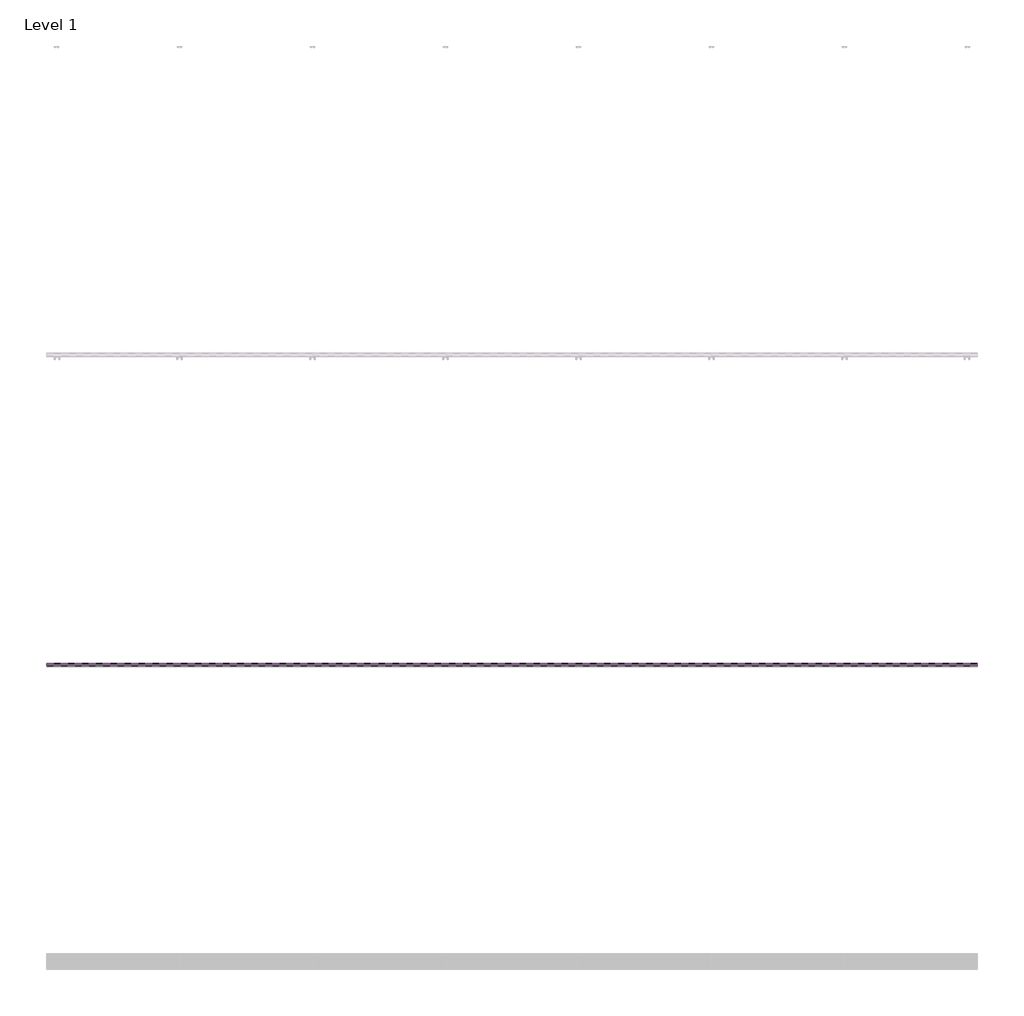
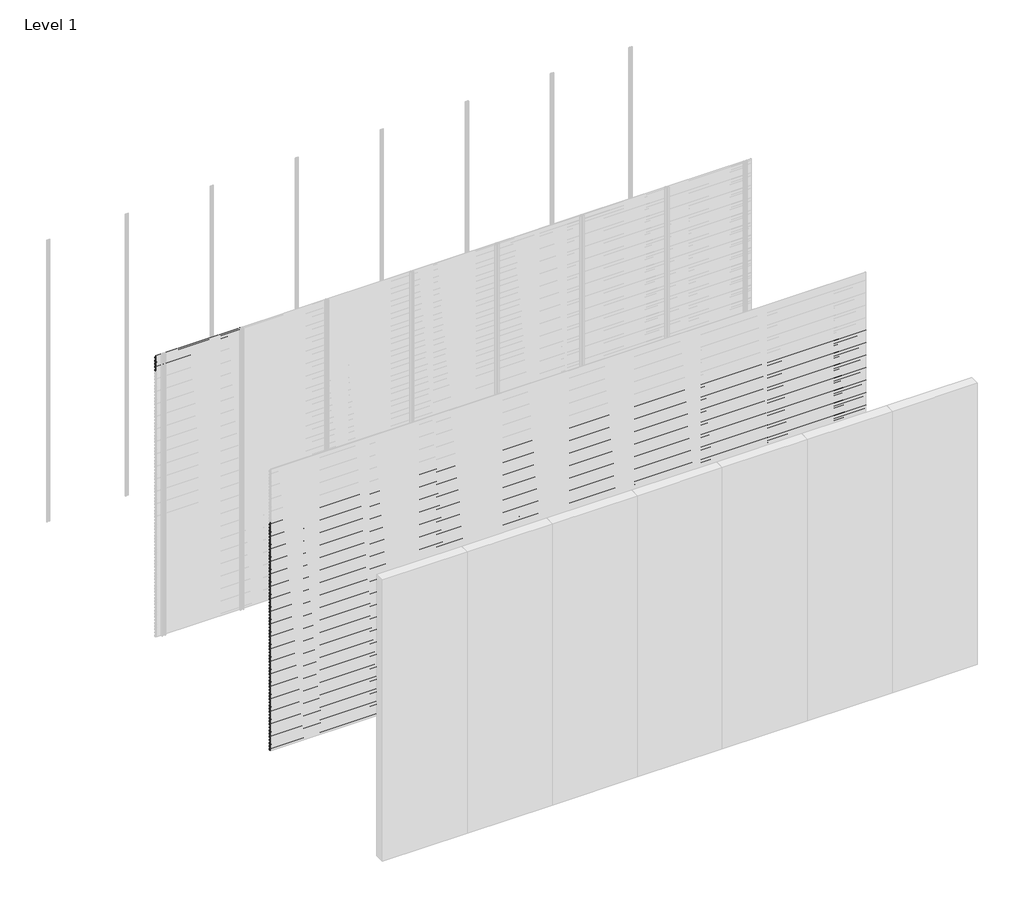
# One storey, part 79 of 96: 78 proxies.
"""IFC4 building model written with IfcOpenShell, lengths in millimetres."""

from ifc_helpers import new_model, si_unit, frame, origin, place, context, project, spatial, polyline, outline, extrude, element, save

model = new_model("IFC4")

# Units and contexts
model_context = context("Model", 3, world=origin())
ifc_project = project(units=[si_unit("LENGTHUNIT", "METRE", prefix="MILLI")], contexts=[model_context])

# Site, building, storey
site = spatial("IfcSite", under=ifc_project)
building = spatial("IfcBuilding", under=site)
storey = spatial("IfcBuildingStorey", under=building, Name="Level 1", Elevation=0.0)

# Proxies
placement = place(None, origin())
element("IfcBuildingElementProxy", 1, Name="Wall Sweeps", at=placement, inside=storey, context=model_context, shape_type="SweptSolid", body=[
    extrude(outline(polyline([(-5977.6, 2971.7655033), (-5977.6, 2957.4779188), (-5982.4114965, 2954.7), (-5982.4114965, 2955.9701706), (-5978.85, 2958.0264016), (-5978.85, 2971.0437382), (-5998.0, 2982.1000799), (-5998.0, 2997.0), (-5996.75, 2997.0), (-5996.75, 2982.8217609), (-5977.6, 2971.7655033)])), frame((0.0, 0.0, 0.0), z_axis=(1.0, 0.0, 0.0), x_axis=(0.0, 1.0, 0.0)), (0.0, 0.0, 1.0), 857.1428571),
])
element("IfcBuildingElementProxy", 2, Name="Wall Sweeps", at=placement, inside=storey, context=model_context, shape_type="SweptSolid", body=[
    extrude(outline(polyline([(-5977.6, 2938.4655033), (-5977.6, 2924.1779188), (-5982.4114965, 2921.4), (-5982.4114965, 2922.6701706), (-5978.85, 2924.7264016), (-5978.85, 2937.7437382), (-5998.0, 2948.8000799), (-5998.0, 2963.7), (-5996.75, 2963.7), (-5996.75, 2949.5217609), (-5977.6, 2938.4655033)])), frame((0.0, 0.0, 0.0), z_axis=(1.0, 0.0, 0.0), x_axis=(0.0, 1.0, 0.0)), (0.0, 0.0, 1.0), 857.1428571),
])
element("IfcBuildingElementProxy", 3, Name="Wall Sweeps", at=placement, inside=storey, context=model_context, shape_type="SweptSolid", body=[
    extrude(outline(polyline([(-5977.6, 2905.1655033), (-5977.6, 2890.8779188), (-5982.4114965, 2888.1), (-5982.4114965, 2889.3701706), (-5978.85, 2891.4264016), (-5978.85, 2904.4437382), (-5998.0, 2915.5000799), (-5998.0, 2930.4), (-5996.75, 2930.4), (-5996.75, 2916.2217609), (-5977.6, 2905.1655033)])), frame((0.0, 0.0, 0.0), z_axis=(1.0, 0.0, 0.0), x_axis=(0.0, 1.0, 0.0)), (0.0, 0.0, 1.0), 857.1428571),
])
element("IfcBuildingElementProxy", 4, Name="Wall Sweeps", at=placement, inside=storey, context=model_context, shape_type="SweptSolid", body=[
    extrude(outline(polyline([(-5977.6, 2871.8655033), (-5977.6, 2857.5779188), (-5982.4114965, 2854.8), (-5982.4114965, 2856.0701706), (-5978.85, 2858.1264016), (-5978.85, 2871.1437382), (-5998.0, 2882.2000799), (-5998.0, 2897.1), (-5996.75, 2897.1), (-5996.75, 2882.9217609), (-5977.6, 2871.8655033)])), frame((0.0, 0.0, 0.0), z_axis=(1.0, 0.0, 0.0), x_axis=(0.0, 1.0, 0.0)), (0.0, 0.0, 1.0), 857.1428571),
])
element("IfcBuildingElementProxy", 5, Name="Wall Sweeps", at=placement, inside=storey, context=model_context, shape_type="SweptSolid", body=[
    extrude(outline(polyline([(-5977.6, 2838.5655033), (-5977.6, 2824.2779188), (-5982.4114965, 2821.5), (-5982.4114965, 2822.7701706), (-5978.85, 2824.8264016), (-5978.85, 2837.8437382), (-5998.0, 2848.9000799), (-5998.0, 2863.8), (-5996.75, 2863.8), (-5996.75, 2849.6217609), (-5977.6, 2838.5655033)])), frame((0.0, 0.0, 0.0), z_axis=(1.0, 0.0, 0.0), x_axis=(0.0, 1.0, 0.0)), (0.0, 0.0, 1.0), 857.1428571),
])
element("IfcBuildingElementProxy", 6, Name="Wall Sweeps", at=placement, inside=storey, context=model_context, shape_type="SweptSolid", body=[
    extrude(outline(polyline([(-7977.6, 2405.6655033), (-7977.6, 2391.3779188), (-7982.4114965, 2388.6), (-7982.4114965, 2389.8701706), (-7978.85, 2391.9264016), (-7978.85, 2404.9437382), (-7998.0, 2416.0000799), (-7998.0, 2430.9), (-7996.75, 2430.9), (-7996.75, 2416.7217609), (-7977.6, 2405.6655033)])), frame((0.0, 0.0, 0.0), z_axis=(1.0, 0.0, 0.0), x_axis=(0.0, 1.0, 0.0)), (0.0, 0.0, 1.0), 6000.0),
])
element("IfcBuildingElementProxy", 7, Name="Wall Sweeps", at=placement, inside=storey, context=model_context, shape_type="SweptSolid", body=[
    extrude(outline(polyline([(-7977.6, 2372.3655033), (-7977.6, 2358.0779188), (-7982.4114965, 2355.3), (-7982.4114965, 2356.5701706), (-7978.85, 2358.6264016), (-7978.85, 2371.6437382), (-7998.0, 2382.7000799), (-7998.0, 2397.6), (-7996.75, 2397.6), (-7996.75, 2383.4217609), (-7977.6, 2372.3655033)])), frame((0.0, 0.0, 0.0), z_axis=(1.0, 0.0, 0.0), x_axis=(0.0, 1.0, 0.0)), (0.0, 0.0, 1.0), 6000.0),
])
element("IfcBuildingElementProxy", 8, Name="Wall Sweeps", at=placement, inside=storey, context=model_context, shape_type="SweptSolid", body=[
    extrude(outline(polyline([(-7977.6, 2339.0655033), (-7977.6, 2324.7779188), (-7982.4114965, 2322.0), (-7982.4114965, 2323.2701706), (-7978.85, 2325.3264016), (-7978.85, 2338.3437382), (-7998.0, 2349.4000799), (-7998.0, 2364.3), (-7996.75, 2364.3), (-7996.75, 2350.1217609), (-7977.6, 2339.0655033)])), frame((0.0, 0.0, 0.0), z_axis=(1.0, 0.0, 0.0), x_axis=(0.0, 1.0, 0.0)), (0.0, 0.0, 1.0), 6000.0),
])
element("IfcBuildingElementProxy", 9, Name="Wall Sweeps", at=placement, inside=storey, context=model_context, shape_type="SweptSolid", body=[
    extrude(outline(polyline([(-7977.6, 2305.7655033), (-7977.6, 2291.4779188), (-7982.4114965, 2288.7), (-7982.4114965, 2289.9701706), (-7978.85, 2292.0264016), (-7978.85, 2305.0437382), (-7998.0, 2316.1000799), (-7998.0, 2331.0), (-7996.75, 2331.0), (-7996.75, 2316.8217609), (-7977.6, 2305.7655033)])), frame((0.0, 0.0, 0.0), z_axis=(1.0, 0.0, 0.0), x_axis=(0.0, 1.0, 0.0)), (0.0, 0.0, 1.0), 6000.0),
])
element("IfcBuildingElementProxy", 10, Name="Wall Sweeps", at=placement, inside=storey, context=model_context, shape_type="SweptSolid", body=[
    extrude(outline(polyline([(-7977.6, 2272.4655033), (-7977.6, 2258.1779188), (-7982.4114965, 2255.4), (-7982.4114965, 2256.6701706), (-7978.85, 2258.7264016), (-7978.85, 2271.7437382), (-7998.0, 2282.8000799), (-7998.0, 2297.7), (-7996.75, 2297.7), (-7996.75, 2283.5217609), (-7977.6, 2272.4655033)])), frame((0.0, 0.0, 0.0), z_axis=(1.0, 0.0, 0.0), x_axis=(0.0, 1.0, 0.0)), (0.0, 0.0, 1.0), 6000.0),
])
element("IfcBuildingElementProxy", 11, Name="Wall Sweeps", at=placement, inside=storey, context=model_context, shape_type="SweptSolid", body=[
    extrude(outline(polyline([(-7977.6, 2239.1655033), (-7977.6, 2224.8779188), (-7982.4114965, 2222.1), (-7982.4114965, 2223.3701706), (-7978.85, 2225.4264016), (-7978.85, 2238.4437382), (-7998.0, 2249.5000799), (-7998.0, 2264.4), (-7996.75, 2264.4), (-7996.75, 2250.2217609), (-7977.6, 2239.1655033)])), frame((0.0, 0.0, 0.0), z_axis=(1.0, 0.0, 0.0), x_axis=(0.0, 1.0, 0.0)), (0.0, 0.0, 1.0), 6000.0),
])
element("IfcBuildingElementProxy", 12, Name="Wall Sweeps", at=placement, inside=storey, context=model_context, shape_type="SweptSolid", body=[
    extrude(outline(polyline([(-7977.6, 2205.8655033), (-7977.6, 2191.5779188), (-7982.4114965, 2188.8), (-7982.4114965, 2190.0701706), (-7978.85, 2192.1264016), (-7978.85, 2205.1437382), (-7998.0, 2216.2000799), (-7998.0, 2231.1), (-7996.75, 2231.1), (-7996.75, 2216.9217609), (-7977.6, 2205.8655033)])), frame((0.0, 0.0, 0.0), z_axis=(1.0, 0.0, 0.0), x_axis=(0.0, 1.0, 0.0)), (0.0, 0.0, 1.0), 6000.0),
])
element("IfcBuildingElementProxy", 13, Name="Wall Sweeps", at=placement, inside=storey, context=model_context, shape_type="SweptSolid", body=[
    extrude(outline(polyline([(-7977.6, 2172.5655033), (-7977.6, 2158.2779188), (-7982.4114965, 2155.5), (-7982.4114965, 2156.7701706), (-7978.85, 2158.8264016), (-7978.85, 2171.8437382), (-7998.0, 2182.9000799), (-7998.0, 2197.8), (-7996.75, 2197.8), (-7996.75, 2183.6217609), (-7977.6, 2172.5655033)])), frame((0.0, 0.0, 0.0), z_axis=(1.0, 0.0, 0.0), x_axis=(0.0, 1.0, 0.0)), (0.0, 0.0, 1.0), 6000.0),
])
element("IfcBuildingElementProxy", 14, Name="Wall Sweeps", at=placement, inside=storey, context=model_context, shape_type="SweptSolid", body=[
    extrude(outline(polyline([(-7977.6, 2139.2655033), (-7977.6, 2124.9779188), (-7982.4114965, 2122.2), (-7982.4114965, 2123.4701706), (-7978.85, 2125.5264016), (-7978.85, 2138.5437382), (-7998.0, 2149.6000799), (-7998.0, 2164.5), (-7996.75, 2164.5), (-7996.75, 2150.3217609), (-7977.6, 2139.2655033)])), frame((0.0, 0.0, 0.0), z_axis=(1.0, 0.0, 0.0), x_axis=(0.0, 1.0, 0.0)), (0.0, 0.0, 1.0), 6000.0),
])
element("IfcBuildingElementProxy", 15, Name="Wall Sweeps", at=placement, inside=storey, context=model_context, shape_type="SweptSolid", body=[
    extrude(outline(polyline([(-7977.6, 2105.9655033), (-7977.6, 2091.6779188), (-7982.4114965, 2088.9), (-7982.4114965, 2090.1701706), (-7978.85, 2092.2264016), (-7978.85, 2105.2437382), (-7998.0, 2116.3000799), (-7998.0, 2131.2), (-7996.75, 2131.2), (-7996.75, 2117.0217609), (-7977.6, 2105.9655033)])), frame((0.0, 0.0, 0.0), z_axis=(1.0, 0.0, 0.0), x_axis=(0.0, 1.0, 0.0)), (0.0, 0.0, 1.0), 6000.0),
])
element("IfcBuildingElementProxy", 16, Name="Wall Sweeps", at=placement, inside=storey, context=model_context, shape_type="SweptSolid", body=[
    extrude(outline(polyline([(-7977.6, 2072.6655033), (-7977.6, 2058.3779188), (-7982.4114965, 2055.6), (-7982.4114965, 2056.8701706), (-7978.85, 2058.9264016), (-7978.85, 2071.9437382), (-7998.0, 2083.0000799), (-7998.0, 2097.9), (-7996.75, 2097.9), (-7996.75, 2083.7217609), (-7977.6, 2072.6655033)])), frame((0.0, 0.0, 0.0), z_axis=(1.0, 0.0, 0.0), x_axis=(0.0, 1.0, 0.0)), (0.0, 0.0, 1.0), 6000.0),
])
element("IfcBuildingElementProxy", 17, Name="Wall Sweeps", at=placement, inside=storey, context=model_context, shape_type="SweptSolid", body=[
    extrude(outline(polyline([(-7977.6, 2039.3655033), (-7977.6, 2025.0779188), (-7982.4114965, 2022.3), (-7982.4114965, 2023.5701706), (-7978.85, 2025.6264016), (-7978.85, 2038.6437382), (-7998.0, 2049.7000799), (-7998.0, 2064.6), (-7996.75, 2064.6), (-7996.75, 2050.4217609), (-7977.6, 2039.3655033)])), frame((0.0, 0.0, 0.0), z_axis=(1.0, 0.0, 0.0), x_axis=(0.0, 1.0, 0.0)), (0.0, 0.0, 1.0), 6000.0),
])
element("IfcBuildingElementProxy", 18, Name="Wall Sweeps", at=placement, inside=storey, context=model_context, shape_type="SweptSolid", body=[
    extrude(outline(polyline([(-7977.6, 2006.0655033), (-7977.6, 1991.7779188), (-7982.4114965, 1989.0), (-7982.4114965, 1990.2701706), (-7978.85, 1992.3264016), (-7978.85, 2005.3437382), (-7998.0, 2016.4000799), (-7998.0, 2031.3), (-7996.75, 2031.3), (-7996.75, 2017.1217609), (-7977.6, 2006.0655033)])), frame((0.0, 0.0, 0.0), z_axis=(1.0, 0.0, 0.0), x_axis=(0.0, 1.0, 0.0)), (0.0, 0.0, 1.0), 6000.0),
])
element("IfcBuildingElementProxy", 19, Name="Wall Sweeps", at=placement, inside=storey, context=model_context, shape_type="SweptSolid", body=[
    extrude(outline(polyline([(-7977.6, 1972.7655033), (-7977.6, 1958.4779188), (-7982.4114965, 1955.7), (-7982.4114965, 1956.9701706), (-7978.85, 1959.0264016), (-7978.85, 1972.0437382), (-7998.0, 1983.1000799), (-7998.0, 1998.0), (-7996.75, 1998.0), (-7996.75, 1983.8217609), (-7977.6, 1972.7655033)])), frame((0.0, 0.0, 0.0), z_axis=(1.0, 0.0, 0.0), x_axis=(0.0, 1.0, 0.0)), (0.0, 0.0, 1.0), 6000.0),
])
element("IfcBuildingElementProxy", 20, Name="Wall Sweeps", at=placement, inside=storey, context=model_context, shape_type="SweptSolid", body=[
    extrude(outline(polyline([(-7977.6, 1939.4655033), (-7977.6, 1925.1779188), (-7982.4114965, 1922.4), (-7982.4114965, 1923.6701706), (-7978.85, 1925.7264016), (-7978.85, 1938.7437382), (-7998.0, 1949.8000799), (-7998.0, 1964.7), (-7996.75, 1964.7), (-7996.75, 1950.5217609), (-7977.6, 1939.4655033)])), frame((0.0, 0.0, 0.0), z_axis=(1.0, 0.0, 0.0), x_axis=(0.0, 1.0, 0.0)), (0.0, 0.0, 1.0), 6000.0),
])
element("IfcBuildingElementProxy", 21, Name="Wall Sweeps", at=placement, inside=storey, context=model_context, shape_type="SweptSolid", body=[
    extrude(outline(polyline([(-7977.6, 1906.1655033), (-7977.6, 1891.8779188), (-7982.4114965, 1889.1), (-7982.4114965, 1890.3701706), (-7978.85, 1892.4264016), (-7978.85, 1905.4437382), (-7998.0, 1916.5000799), (-7998.0, 1931.4), (-7996.75, 1931.4), (-7996.75, 1917.2217609), (-7977.6, 1906.1655033)])), frame((0.0, 0.0, 0.0), z_axis=(1.0, 0.0, 0.0), x_axis=(0.0, 1.0, 0.0)), (0.0, 0.0, 1.0), 6000.0),
])
element("IfcBuildingElementProxy", 22, Name="Wall Sweeps", at=placement, inside=storey, context=model_context, shape_type="SweptSolid", body=[
    extrude(outline(polyline([(-7977.6, 1872.8655033), (-7977.6, 1858.5779188), (-7982.4114965, 1855.8), (-7982.4114965, 1857.0701706), (-7978.85, 1859.1264016), (-7978.85, 1872.1437382), (-7998.0, 1883.2000799), (-7998.0, 1898.1), (-7996.75, 1898.1), (-7996.75, 1883.9217609), (-7977.6, 1872.8655033)])), frame((0.0, 0.0, 0.0), z_axis=(1.0, 0.0, 0.0), x_axis=(0.0, 1.0, 0.0)), (0.0, 0.0, 1.0), 6000.0),
])
element("IfcBuildingElementProxy", 23, Name="Wall Sweeps", at=placement, inside=storey, context=model_context, shape_type="SweptSolid", body=[
    extrude(outline(polyline([(-7977.6, 1839.5655033), (-7977.6, 1825.2779188), (-7982.4114965, 1822.5), (-7982.4114965, 1823.7701706), (-7978.85, 1825.8264016), (-7978.85, 1838.8437382), (-7998.0, 1849.9000799), (-7998.0, 1864.8), (-7996.75, 1864.8), (-7996.75, 1850.6217609), (-7977.6, 1839.5655033)])), frame((0.0, 0.0, 0.0), z_axis=(1.0, 0.0, 0.0), x_axis=(0.0, 1.0, 0.0)), (0.0, 0.0, 1.0), 6000.0),
])
element("IfcBuildingElementProxy", 24, Name="Wall Sweeps", at=placement, inside=storey, context=model_context, shape_type="SweptSolid", body=[
    extrude(outline(polyline([(-7977.6, 1806.2655033), (-7977.6, 1791.9779188), (-7982.4114965, 1789.2), (-7982.4114965, 1790.4701706), (-7978.85, 1792.5264016), (-7978.85, 1805.5437382), (-7998.0, 1816.6000799), (-7998.0, 1831.5), (-7996.75, 1831.5), (-7996.75, 1817.3217609), (-7977.6, 1806.2655033)])), frame((0.0, 0.0, 0.0), z_axis=(1.0, 0.0, 0.0), x_axis=(0.0, 1.0, 0.0)), (0.0, 0.0, 1.0), 6000.0),
])
element("IfcBuildingElementProxy", 25, Name="Wall Sweeps", at=placement, inside=storey, context=model_context, shape_type="SweptSolid", body=[
    extrude(outline(polyline([(-7977.6, 1772.9655033), (-7977.6, 1758.6779188), (-7982.4114965, 1755.9), (-7982.4114965, 1757.1701706), (-7978.85, 1759.2264016), (-7978.85, 1772.2437382), (-7998.0, 1783.3000799), (-7998.0, 1798.2), (-7996.75, 1798.2), (-7996.75, 1784.0217609), (-7977.6, 1772.9655033)])), frame((0.0, 0.0, 0.0), z_axis=(1.0, 0.0, 0.0), x_axis=(0.0, 1.0, 0.0)), (0.0, 0.0, 1.0), 6000.0),
])
element("IfcBuildingElementProxy", 26, Name="Wall Sweeps", at=placement, inside=storey, context=model_context, shape_type="SweptSolid", body=[
    extrude(outline(polyline([(-7977.6, 1739.6655033), (-7977.6, 1725.3779188), (-7982.4114965, 1722.6), (-7982.4114965, 1723.8701706), (-7978.85, 1725.9264016), (-7978.85, 1738.9437382), (-7998.0, 1750.0000799), (-7998.0, 1764.9), (-7996.75, 1764.9), (-7996.75, 1750.7217609), (-7977.6, 1739.6655033)])), frame((0.0, 0.0, 0.0), z_axis=(1.0, 0.0, 0.0), x_axis=(0.0, 1.0, 0.0)), (0.0, 0.0, 1.0), 6000.0),
])
element("IfcBuildingElementProxy", 27, Name="Wall Sweeps", at=placement, inside=storey, context=model_context, shape_type="SweptSolid", body=[
    extrude(outline(polyline([(-7977.6, 1706.3655033), (-7977.6, 1692.0779188), (-7982.4114965, 1689.3), (-7982.4114965, 1690.5701706), (-7978.85, 1692.6264016), (-7978.85, 1705.6437382), (-7998.0, 1716.7000799), (-7998.0, 1731.6), (-7996.75, 1731.6), (-7996.75, 1717.4217609), (-7977.6, 1706.3655033)])), frame((0.0, 0.0, 0.0), z_axis=(1.0, 0.0, 0.0), x_axis=(0.0, 1.0, 0.0)), (0.0, 0.0, 1.0), 6000.0),
])
element("IfcBuildingElementProxy", 28, Name="Wall Sweeps", at=placement, inside=storey, context=model_context, shape_type="SweptSolid", body=[
    extrude(outline(polyline([(-7977.6, 1673.0655033), (-7977.6, 1658.7779188), (-7982.4114965, 1656.0), (-7982.4114965, 1657.2701706), (-7978.85, 1659.3264016), (-7978.85, 1672.3437382), (-7998.0, 1683.4000799), (-7998.0, 1698.3), (-7996.75, 1698.3), (-7996.75, 1684.1217609), (-7977.6, 1673.0655033)])), frame((0.0, 0.0, 0.0), z_axis=(1.0, 0.0, 0.0), x_axis=(0.0, 1.0, 0.0)), (0.0, 0.0, 1.0), 6000.0),
])
element("IfcBuildingElementProxy", 29, Name="Wall Sweeps", at=placement, inside=storey, context=model_context, shape_type="SweptSolid", body=[
    extrude(outline(polyline([(-7977.6, 1639.7655033), (-7977.6, 1625.4779188), (-7982.4114965, 1622.7), (-7982.4114965, 1623.9701706), (-7978.85, 1626.0264016), (-7978.85, 1639.0437382), (-7998.0, 1650.1000799), (-7998.0, 1665.0), (-7996.75, 1665.0), (-7996.75, 1650.8217609), (-7977.6, 1639.7655033)])), frame((0.0, 0.0, 0.0), z_axis=(1.0, 0.0, 0.0), x_axis=(0.0, 1.0, 0.0)), (0.0, 0.0, 1.0), 6000.0),
])
element("IfcBuildingElementProxy", 30, Name="Wall Sweeps", at=placement, inside=storey, context=model_context, shape_type="SweptSolid", body=[
    extrude(outline(polyline([(-7977.6, 1606.4655033), (-7977.6, 1592.1779188), (-7982.4114965, 1589.4), (-7982.4114965, 1590.6701706), (-7978.85, 1592.7264016), (-7978.85, 1605.7437382), (-7998.0, 1616.8000799), (-7998.0, 1631.7), (-7996.75, 1631.7), (-7996.75, 1617.5217609), (-7977.6, 1606.4655033)])), frame((0.0, 0.0, 0.0), z_axis=(1.0, 0.0, 0.0), x_axis=(0.0, 1.0, 0.0)), (0.0, 0.0, 1.0), 6000.0),
])
element("IfcBuildingElementProxy", 31, Name="Wall Sweeps", at=placement, inside=storey, context=model_context, shape_type="SweptSolid", body=[
    extrude(outline(polyline([(-7977.6, 1573.1655033), (-7977.6, 1558.8779188), (-7982.4114965, 1556.1), (-7982.4114965, 1557.3701706), (-7978.85, 1559.4264016), (-7978.85, 1572.4437382), (-7998.0, 1583.5000799), (-7998.0, 1598.4), (-7996.75, 1598.4), (-7996.75, 1584.2217609), (-7977.6, 1573.1655033)])), frame((0.0, 0.0, 0.0), z_axis=(1.0, 0.0, 0.0), x_axis=(0.0, 1.0, 0.0)), (0.0, 0.0, 1.0), 6000.0),
])
element("IfcBuildingElementProxy", 32, Name="Wall Sweeps", at=placement, inside=storey, context=model_context, shape_type="SweptSolid", body=[
    extrude(outline(polyline([(-7977.6, 1539.8655033), (-7977.6, 1525.5779188), (-7982.4114965, 1522.8), (-7982.4114965, 1524.0701706), (-7978.85, 1526.1264016), (-7978.85, 1539.1437382), (-7998.0, 1550.2000799), (-7998.0, 1565.1), (-7996.75, 1565.1), (-7996.75, 1550.9217609), (-7977.6, 1539.8655033)])), frame((0.0, 0.0, 0.0), z_axis=(1.0, 0.0, 0.0), x_axis=(0.0, 1.0, 0.0)), (0.0, 0.0, 1.0), 6000.0),
])
element("IfcBuildingElementProxy", 33, Name="Wall Sweeps", at=placement, inside=storey, context=model_context, shape_type="SweptSolid", body=[
    extrude(outline(polyline([(-7977.6, 1506.5655033), (-7977.6, 1492.2779188), (-7982.4114965, 1489.5), (-7982.4114965, 1490.7701706), (-7978.85, 1492.8264016), (-7978.85, 1505.8437382), (-7998.0, 1516.9000799), (-7998.0, 1531.8), (-7996.75, 1531.8), (-7996.75, 1517.6217609), (-7977.6, 1506.5655033)])), frame((0.0, 0.0, 0.0), z_axis=(1.0, 0.0, 0.0), x_axis=(0.0, 1.0, 0.0)), (0.0, 0.0, 1.0), 6000.0),
])
element("IfcBuildingElementProxy", 34, Name="Wall Sweeps", at=placement, inside=storey, context=model_context, shape_type="SweptSolid", body=[
    extrude(outline(polyline([(-7977.6, 1473.2655033), (-7977.6, 1458.9779188), (-7982.4114965, 1456.2), (-7982.4114965, 1457.4701706), (-7978.85, 1459.5264016), (-7978.85, 1472.5437382), (-7998.0, 1483.6000799), (-7998.0, 1498.5), (-7996.75, 1498.5), (-7996.75, 1484.3217609), (-7977.6, 1473.2655033)])), frame((0.0, 0.0, 0.0), z_axis=(1.0, 0.0, 0.0), x_axis=(0.0, 1.0, 0.0)), (0.0, 0.0, 1.0), 6000.0),
])
element("IfcBuildingElementProxy", 35, Name="Wall Sweeps", at=placement, inside=storey, context=model_context, shape_type="SweptSolid", body=[
    extrude(outline(polyline([(-7977.6, 1439.9655033), (-7977.6, 1425.6779188), (-7982.4114965, 1422.9), (-7982.4114965, 1424.1701706), (-7978.85, 1426.2264016), (-7978.85, 1439.2437382), (-7998.0, 1450.3000799), (-7998.0, 1465.2), (-7996.75, 1465.2), (-7996.75, 1451.0217609), (-7977.6, 1439.9655033)])), frame((0.0, 0.0, 0.0), z_axis=(1.0, 0.0, 0.0), x_axis=(0.0, 1.0, 0.0)), (0.0, 0.0, 1.0), 6000.0),
])
element("IfcBuildingElementProxy", 36, Name="Wall Sweeps", at=placement, inside=storey, context=model_context, shape_type="SweptSolid", body=[
    extrude(outline(polyline([(-7977.6, 1406.6655033), (-7977.6, 1392.3779188), (-7982.4114965, 1389.6), (-7982.4114965, 1390.8701706), (-7978.85, 1392.9264016), (-7978.85, 1405.9437382), (-7998.0, 1417.0000799), (-7998.0, 1431.9), (-7996.75, 1431.9), (-7996.75, 1417.7217609), (-7977.6, 1406.6655033)])), frame((0.0, 0.0, 0.0), z_axis=(1.0, 0.0, 0.0), x_axis=(0.0, 1.0, 0.0)), (0.0, 0.0, 1.0), 6000.0),
])
element("IfcBuildingElementProxy", 37, Name="Wall Sweeps", at=placement, inside=storey, context=model_context, shape_type="SweptSolid", body=[
    extrude(outline(polyline([(-7977.6, 1373.3655033), (-7977.6, 1359.0779188), (-7982.4114965, 1356.3), (-7982.4114965, 1357.5701706), (-7978.85, 1359.6264016), (-7978.85, 1372.6437382), (-7998.0, 1383.7000799), (-7998.0, 1398.6), (-7996.75, 1398.6), (-7996.75, 1384.4217609), (-7977.6, 1373.3655033)])), frame((0.0, 0.0, 0.0), z_axis=(1.0, 0.0, 0.0), x_axis=(0.0, 1.0, 0.0)), (0.0, 0.0, 1.0), 6000.0),
])
element("IfcBuildingElementProxy", 38, Name="Wall Sweeps", at=placement, inside=storey, context=model_context, shape_type="SweptSolid", body=[
    extrude(outline(polyline([(-7977.6, 1340.0655033), (-7977.6, 1325.7779188), (-7982.4114965, 1323.0), (-7982.4114965, 1324.2701706), (-7978.85, 1326.3264016), (-7978.85, 1339.3437382), (-7998.0, 1350.4000799), (-7998.0, 1365.3), (-7996.75, 1365.3), (-7996.75, 1351.1217609), (-7977.6, 1340.0655033)])), frame((0.0, 0.0, 0.0), z_axis=(1.0, 0.0, 0.0), x_axis=(0.0, 1.0, 0.0)), (0.0, 0.0, 1.0), 6000.0),
])
element("IfcBuildingElementProxy", 39, Name="Wall Sweeps", at=placement, inside=storey, context=model_context, shape_type="SweptSolid", body=[
    extrude(outline(polyline([(-7977.6, 1306.7655033), (-7977.6, 1292.4779188), (-7982.4114965, 1289.7), (-7982.4114965, 1290.9701706), (-7978.85, 1293.0264016), (-7978.85, 1306.0437382), (-7998.0, 1317.1000799), (-7998.0, 1332.0), (-7996.75, 1332.0), (-7996.75, 1317.8217609), (-7977.6, 1306.7655033)])), frame((0.0, 0.0, 0.0), z_axis=(1.0, 0.0, 0.0), x_axis=(0.0, 1.0, 0.0)), (0.0, 0.0, 1.0), 6000.0),
])
element("IfcBuildingElementProxy", 40, Name="Wall Sweeps", at=placement, inside=storey, context=model_context, shape_type="SweptSolid", body=[
    extrude(outline(polyline([(-7977.6, 1273.4655033), (-7977.6, 1259.1779188), (-7982.4114965, 1256.4), (-7982.4114965, 1257.6701706), (-7978.85, 1259.7264016), (-7978.85, 1272.7437382), (-7998.0, 1283.8000799), (-7998.0, 1298.7), (-7996.75, 1298.7), (-7996.75, 1284.5217609), (-7977.6, 1273.4655033)])), frame((0.0, 0.0, 0.0), z_axis=(1.0, 0.0, 0.0), x_axis=(0.0, 1.0, 0.0)), (0.0, 0.0, 1.0), 6000.0),
])
element("IfcBuildingElementProxy", 41, Name="Wall Sweeps", at=placement, inside=storey, context=model_context, shape_type="SweptSolid", body=[
    extrude(outline(polyline([(-7977.6, 1240.1655033), (-7977.6, 1225.8779188), (-7982.4114965, 1223.1), (-7982.4114965, 1224.3701706), (-7978.85, 1226.4264016), (-7978.85, 1239.4437382), (-7998.0, 1250.5000799), (-7998.0, 1265.4), (-7996.75, 1265.4), (-7996.75, 1251.2217609), (-7977.6, 1240.1655033)])), frame((0.0, 0.0, 0.0), z_axis=(1.0, 0.0, 0.0), x_axis=(0.0, 1.0, 0.0)), (0.0, 0.0, 1.0), 6000.0),
])
element("IfcBuildingElementProxy", 42, Name="Wall Sweeps", at=placement, inside=storey, context=model_context, shape_type="SweptSolid", body=[
    extrude(outline(polyline([(-7977.6, 1206.8655033), (-7977.6, 1192.5779188), (-7982.4114965, 1189.8), (-7982.4114965, 1191.0701706), (-7978.85, 1193.1264016), (-7978.85, 1206.1437382), (-7998.0, 1217.2000799), (-7998.0, 1232.1), (-7996.75, 1232.1), (-7996.75, 1217.9217609), (-7977.6, 1206.8655033)])), frame((0.0, 0.0, 0.0), z_axis=(1.0, 0.0, 0.0), x_axis=(0.0, 1.0, 0.0)), (0.0, 0.0, 1.0), 6000.0),
])
element("IfcBuildingElementProxy", 43, Name="Wall Sweeps", at=placement, inside=storey, context=model_context, shape_type="SweptSolid", body=[
    extrude(outline(polyline([(-7977.6, 1173.5655033), (-7977.6, 1159.2779188), (-7982.4114965, 1156.5), (-7982.4114965, 1157.7701706), (-7978.85, 1159.8264016), (-7978.85, 1172.8437382), (-7998.0, 1183.9000799), (-7998.0, 1198.8), (-7996.75, 1198.8), (-7996.75, 1184.6217609), (-7977.6, 1173.5655033)])), frame((0.0, 0.0, 0.0), z_axis=(1.0, 0.0, 0.0), x_axis=(0.0, 1.0, 0.0)), (0.0, 0.0, 1.0), 6000.0),
])
element("IfcBuildingElementProxy", 44, Name="Wall Sweeps", at=placement, inside=storey, context=model_context, shape_type="SweptSolid", body=[
    extrude(outline(polyline([(-7977.6, 1140.2655033), (-7977.6, 1125.9779188), (-7982.4114965, 1123.2), (-7982.4114965, 1124.4701706), (-7978.85, 1126.5264016), (-7978.85, 1139.5437382), (-7998.0, 1150.6000799), (-7998.0, 1165.5), (-7996.75, 1165.5), (-7996.75, 1151.3217609), (-7977.6, 1140.2655033)])), frame((0.0, 0.0, 0.0), z_axis=(1.0, 0.0, 0.0), x_axis=(0.0, 1.0, 0.0)), (0.0, 0.0, 1.0), 6000.0),
])
element("IfcBuildingElementProxy", 45, Name="Wall Sweeps", at=placement, inside=storey, context=model_context, shape_type="SweptSolid", body=[
    extrude(outline(polyline([(-7977.6, 1106.9655033), (-7977.6, 1092.6779188), (-7982.4114965, 1089.9), (-7982.4114965, 1091.1701706), (-7978.85, 1093.2264016), (-7978.85, 1106.2437382), (-7998.0, 1117.3000799), (-7998.0, 1132.2), (-7996.75, 1132.2), (-7996.75, 1118.0217609), (-7977.6, 1106.9655033)])), frame((0.0, 0.0, 0.0), z_axis=(1.0, 0.0, 0.0), x_axis=(0.0, 1.0, 0.0)), (0.0, 0.0, 1.0), 6000.0),
])
element("IfcBuildingElementProxy", 46, Name="Wall Sweeps", at=placement, inside=storey, context=model_context, shape_type="SweptSolid", body=[
    extrude(outline(polyline([(-7977.6, 1073.6655033), (-7977.6, 1059.3779188), (-7982.4114965, 1056.6), (-7982.4114965, 1057.8701706), (-7978.85, 1059.9264016), (-7978.85, 1072.9437382), (-7998.0, 1084.0000799), (-7998.0, 1098.9), (-7996.75, 1098.9), (-7996.75, 1084.7217609), (-7977.6, 1073.6655033)])), frame((0.0, 0.0, 0.0), z_axis=(1.0, 0.0, 0.0), x_axis=(0.0, 1.0, 0.0)), (0.0, 0.0, 1.0), 6000.0),
])
element("IfcBuildingElementProxy", 47, Name="Wall Sweeps", at=placement, inside=storey, context=model_context, shape_type="SweptSolid", body=[
    extrude(outline(polyline([(-7977.6, 1040.3655033), (-7977.6, 1026.0779188), (-7982.4114965, 1023.3), (-7982.4114965, 1024.5701706), (-7978.85, 1026.6264016), (-7978.85, 1039.6437382), (-7998.0, 1050.7000799), (-7998.0, 1065.6), (-7996.75, 1065.6), (-7996.75, 1051.4217609), (-7977.6, 1040.3655033)])), frame((0.0, 0.0, 0.0), z_axis=(1.0, 0.0, 0.0), x_axis=(0.0, 1.0, 0.0)), (0.0, 0.0, 1.0), 6000.0),
])
element("IfcBuildingElementProxy", 48, Name="Wall Sweeps", at=placement, inside=storey, context=model_context, shape_type="SweptSolid", body=[
    extrude(outline(polyline([(-7977.6, 1007.0655033), (-7977.6, 992.7779188), (-7982.4114965, 990.0), (-7982.4114965, 991.2701706), (-7978.85, 993.3264016), (-7978.85, 1006.3437382), (-7998.0, 1017.4000799), (-7998.0, 1032.3), (-7996.75, 1032.3), (-7996.75, 1018.1217609), (-7977.6, 1007.0655033)])), frame((0.0, 0.0, 0.0), z_axis=(1.0, 0.0, 0.0), x_axis=(0.0, 1.0, 0.0)), (0.0, 0.0, 1.0), 6000.0),
])
element("IfcBuildingElementProxy", 49, Name="Wall Sweeps", at=placement, inside=storey, context=model_context, shape_type="SweptSolid", body=[
    extrude(outline(polyline([(-7977.6, 973.7655033), (-7977.6, 959.4779188), (-7982.4114965, 956.7), (-7982.4114965, 957.9701706), (-7978.85, 960.0264016), (-7978.85, 973.0437382), (-7998.0, 984.1000799), (-7998.0, 999.0), (-7996.75, 999.0), (-7996.75, 984.8217609), (-7977.6, 973.7655033)])), frame((0.0, 0.0, 0.0), z_axis=(1.0, 0.0, 0.0), x_axis=(0.0, 1.0, 0.0)), (0.0, 0.0, 1.0), 6000.0),
])
element("IfcBuildingElementProxy", 50, Name="Wall Sweeps", at=placement, inside=storey, context=model_context, shape_type="SweptSolid", body=[
    extrude(outline(polyline([(-7977.6, 940.4655033), (-7977.6, 926.1779188), (-7982.4114965, 923.4), (-7982.4114965, 924.6701706), (-7978.85, 926.7264016), (-7978.85, 939.7437382), (-7998.0, 950.8000799), (-7998.0, 965.7), (-7996.75, 965.7), (-7996.75, 951.5217609), (-7977.6, 940.4655033)])), frame((0.0, 0.0, 0.0), z_axis=(1.0, 0.0, 0.0), x_axis=(0.0, 1.0, 0.0)), (0.0, 0.0, 1.0), 6000.0),
])
element("IfcBuildingElementProxy", 51, Name="Wall Sweeps", at=placement, inside=storey, context=model_context, shape_type="SweptSolid", body=[
    extrude(outline(polyline([(-7977.6, 907.1655033), (-7977.6, 892.8779188), (-7982.4114965, 890.1), (-7982.4114965, 891.3701706), (-7978.85, 893.4264016), (-7978.85, 906.4437382), (-7998.0, 917.5000799), (-7998.0, 932.4), (-7996.75, 932.4), (-7996.75, 918.2217609), (-7977.6, 907.1655033)])), frame((0.0, 0.0, 0.0), z_axis=(1.0, 0.0, 0.0), x_axis=(0.0, 1.0, 0.0)), (0.0, 0.0, 1.0), 6000.0),
])
element("IfcBuildingElementProxy", 52, Name="Wall Sweeps", at=placement, inside=storey, context=model_context, shape_type="SweptSolid", body=[
    extrude(outline(polyline([(-7977.6, 873.8655033), (-7977.6, 859.5779188), (-7982.4114965, 856.8), (-7982.4114965, 858.0701706), (-7978.85, 860.1264016), (-7978.85, 873.1437382), (-7998.0, 884.2000799), (-7998.0, 899.1), (-7996.75, 899.1), (-7996.75, 884.9217609), (-7977.6, 873.8655033)])), frame((0.0, 0.0, 0.0), z_axis=(1.0, 0.0, 0.0), x_axis=(0.0, 1.0, 0.0)), (0.0, 0.0, 1.0), 6000.0),
])
element("IfcBuildingElementProxy", 53, Name="Wall Sweeps", at=placement, inside=storey, context=model_context, shape_type="SweptSolid", body=[
    extrude(outline(polyline([(-7977.6, 840.5655033), (-7977.6, 826.2779188), (-7982.4114965, 823.5), (-7982.4114965, 824.7701706), (-7978.85, 826.8264016), (-7978.85, 839.8437382), (-7998.0, 850.9000799), (-7998.0, 865.8), (-7996.75, 865.8), (-7996.75, 851.6217609), (-7977.6, 840.5655033)])), frame((0.0, 0.0, 0.0), z_axis=(1.0, 0.0, 0.0), x_axis=(0.0, 1.0, 0.0)), (0.0, 0.0, 1.0), 6000.0),
])
element("IfcBuildingElementProxy", 54, Name="Wall Sweeps", at=placement, inside=storey, context=model_context, shape_type="SweptSolid", body=[
    extrude(outline(polyline([(-7977.6, 807.2655033), (-7977.6, 792.9779188), (-7982.4114965, 790.2), (-7982.4114965, 791.4701706), (-7978.85, 793.5264016), (-7978.85, 806.5437382), (-7998.0, 817.6000799), (-7998.0, 832.5), (-7996.75, 832.5), (-7996.75, 818.3217609), (-7977.6, 807.2655033)])), frame((0.0, 0.0, 0.0), z_axis=(1.0, 0.0, 0.0), x_axis=(0.0, 1.0, 0.0)), (0.0, 0.0, 1.0), 6000.0),
])
element("IfcBuildingElementProxy", 55, Name="Wall Sweeps", at=placement, inside=storey, context=model_context, shape_type="SweptSolid", body=[
    extrude(outline(polyline([(-7977.6, 773.9655033), (-7977.6, 759.6779188), (-7982.4114965, 756.9), (-7982.4114965, 758.1701706), (-7978.85, 760.2264016), (-7978.85, 773.2437382), (-7998.0, 784.3000799), (-7998.0, 799.2), (-7996.75, 799.2), (-7996.75, 785.0217609), (-7977.6, 773.9655033)])), frame((0.0, 0.0, 0.0), z_axis=(1.0, 0.0, 0.0), x_axis=(0.0, 1.0, 0.0)), (0.0, 0.0, 1.0), 6000.0),
])
element("IfcBuildingElementProxy", 56, Name="Wall Sweeps", at=placement, inside=storey, context=model_context, shape_type="SweptSolid", body=[
    extrude(outline(polyline([(-7977.6, 740.6655033), (-7977.6, 726.3779188), (-7982.4114965, 723.6), (-7982.4114965, 724.8701706), (-7978.85, 726.9264016), (-7978.85, 739.9437382), (-7998.0, 751.0000799), (-7998.0, 765.9), (-7996.75, 765.9), (-7996.75, 751.7217609), (-7977.6, 740.6655033)])), frame((0.0, 0.0, 0.0), z_axis=(1.0, 0.0, 0.0), x_axis=(0.0, 1.0, 0.0)), (0.0, 0.0, 1.0), 6000.0),
])
element("IfcBuildingElementProxy", 57, Name="Wall Sweeps", at=placement, inside=storey, context=model_context, shape_type="SweptSolid", body=[
    extrude(outline(polyline([(-7977.6, 707.3655033), (-7977.6, 693.0779188), (-7982.4114965, 690.3), (-7982.4114965, 691.5701706), (-7978.85, 693.6264016), (-7978.85, 706.6437382), (-7998.0, 717.7000799), (-7998.0, 732.6), (-7996.75, 732.6), (-7996.75, 718.4217609), (-7977.6, 707.3655033)])), frame((0.0, 0.0, 0.0), z_axis=(1.0, 0.0, 0.0), x_axis=(0.0, 1.0, 0.0)), (0.0, 0.0, 1.0), 6000.0),
])
element("IfcBuildingElementProxy", 58, Name="Wall Sweeps", at=placement, inside=storey, context=model_context, shape_type="SweptSolid", body=[
    extrude(outline(polyline([(-7977.6, 674.0655033), (-7977.6, 659.7779188), (-7982.4114965, 657.0), (-7982.4114965, 658.2701706), (-7978.85, 660.3264016), (-7978.85, 673.3437382), (-7998.0, 684.4000799), (-7998.0, 699.3), (-7996.75, 699.3), (-7996.75, 685.1217609), (-7977.6, 674.0655033)])), frame((0.0, 0.0, 0.0), z_axis=(1.0, 0.0, 0.0), x_axis=(0.0, 1.0, 0.0)), (0.0, 0.0, 1.0), 6000.0),
])
element("IfcBuildingElementProxy", 59, Name="Wall Sweeps", at=placement, inside=storey, context=model_context, shape_type="SweptSolid", body=[
    extrude(outline(polyline([(-7977.6, 640.7655033), (-7977.6, 626.4779188), (-7982.4114965, 623.7), (-7982.4114965, 624.9701706), (-7978.85, 627.0264016), (-7978.85, 640.0437382), (-7998.0, 651.1000799), (-7998.0, 666.0), (-7996.75, 666.0), (-7996.75, 651.8217609), (-7977.6, 640.7655033)])), frame((0.0, 0.0, 0.0), z_axis=(1.0, 0.0, 0.0), x_axis=(0.0, 1.0, 0.0)), (0.0, 0.0, 1.0), 6000.0),
])
element("IfcBuildingElementProxy", 60, Name="Wall Sweeps", at=placement, inside=storey, context=model_context, shape_type="SweptSolid", body=[
    extrude(outline(polyline([(-7977.6, 607.4655033), (-7977.6, 593.1779188), (-7982.4114965, 590.4), (-7982.4114965, 591.6701706), (-7978.85, 593.7264016), (-7978.85, 606.7437382), (-7998.0, 617.8000799), (-7998.0, 632.7), (-7996.75, 632.7), (-7996.75, 618.5217609), (-7977.6, 607.4655033)])), frame((0.0, 0.0, 0.0), z_axis=(1.0, 0.0, 0.0), x_axis=(0.0, 1.0, 0.0)), (0.0, 0.0, 1.0), 6000.0),
])
element("IfcBuildingElementProxy", 61, Name="Wall Sweeps", at=placement, inside=storey, context=model_context, shape_type="SweptSolid", body=[
    extrude(outline(polyline([(-7977.6, 574.1655033), (-7977.6, 559.8779188), (-7982.4114965, 557.1), (-7982.4114965, 558.3701706), (-7978.85, 560.4264016), (-7978.85, 573.4437382), (-7998.0, 584.5000799), (-7998.0, 599.4), (-7996.75, 599.4), (-7996.75, 585.2217609), (-7977.6, 574.1655033)])), frame((0.0, 0.0, 0.0), z_axis=(1.0, 0.0, 0.0), x_axis=(0.0, 1.0, 0.0)), (0.0, 0.0, 1.0), 6000.0),
])
element("IfcBuildingElementProxy", 62, Name="Wall Sweeps", at=placement, inside=storey, context=model_context, shape_type="SweptSolid", body=[
    extrude(outline(polyline([(-7977.6, 540.8655033), (-7977.6, 526.5779188), (-7982.4114965, 523.8), (-7982.4114965, 525.0701706), (-7978.85, 527.1264016), (-7978.85, 540.1437382), (-7998.0, 551.2000799), (-7998.0, 566.1), (-7996.75, 566.1), (-7996.75, 551.9217609), (-7977.6, 540.8655033)])), frame((0.0, 0.0, 0.0), z_axis=(1.0, 0.0, 0.0), x_axis=(0.0, 1.0, 0.0)), (0.0, 0.0, 1.0), 6000.0),
])
element("IfcBuildingElementProxy", 63, Name="Wall Sweeps", at=placement, inside=storey, context=model_context, shape_type="SweptSolid", body=[
    extrude(outline(polyline([(-7977.6, 507.5655033), (-7977.6, 493.2779188), (-7982.4114965, 490.5), (-7982.4114965, 491.7701706), (-7978.85, 493.8264016), (-7978.85, 506.8437382), (-7998.0, 517.9000799), (-7998.0, 532.8), (-7996.75, 532.8), (-7996.75, 518.6217609), (-7977.6, 507.5655033)])), frame((0.0, 0.0, 0.0), z_axis=(1.0, 0.0, 0.0), x_axis=(0.0, 1.0, 0.0)), (0.0, 0.0, 1.0), 6000.0),
])
element("IfcBuildingElementProxy", 64, Name="Wall Sweeps", at=placement, inside=storey, context=model_context, shape_type="SweptSolid", body=[
    extrude(outline(polyline([(-7977.6, 474.2655033), (-7977.6, 459.9779188), (-7982.4114965, 457.2), (-7982.4114965, 458.4701706), (-7978.85, 460.5264016), (-7978.85, 473.5437382), (-7998.0, 484.6000799), (-7998.0, 499.5), (-7996.75, 499.5), (-7996.75, 485.3217609), (-7977.6, 474.2655033)])), frame((0.0, 0.0, 0.0), z_axis=(1.0, 0.0, 0.0), x_axis=(0.0, 1.0, 0.0)), (0.0, 0.0, 1.0), 6000.0),
])
element("IfcBuildingElementProxy", 65, Name="Wall Sweeps", at=placement, inside=storey, context=model_context, shape_type="SweptSolid", body=[
    extrude(outline(polyline([(-7977.6, 440.9655033), (-7977.6, 426.6779188), (-7982.4114965, 423.9), (-7982.4114965, 425.1701706), (-7978.85, 427.2264016), (-7978.85, 440.2437382), (-7998.0, 451.3000799), (-7998.0, 466.2), (-7996.75, 466.2), (-7996.75, 452.0217609), (-7977.6, 440.9655033)])), frame((0.0, 0.0, 0.0), z_axis=(1.0, 0.0, 0.0), x_axis=(0.0, 1.0, 0.0)), (0.0, 0.0, 1.0), 6000.0),
])
element("IfcBuildingElementProxy", 66, Name="Wall Sweeps", at=placement, inside=storey, context=model_context, shape_type="SweptSolid", body=[
    extrude(outline(polyline([(-7977.6, 407.6655033), (-7977.6, 393.3779188), (-7982.4114965, 390.6), (-7982.4114965, 391.8701706), (-7978.85, 393.9264016), (-7978.85, 406.9437382), (-7998.0, 418.0000799), (-7998.0, 432.9), (-7996.75, 432.9), (-7996.75, 418.7217609), (-7977.6, 407.6655033)])), frame((0.0, 0.0, 0.0), z_axis=(1.0, 0.0, 0.0), x_axis=(0.0, 1.0, 0.0)), (0.0, 0.0, 1.0), 6000.0),
])
element("IfcBuildingElementProxy", 67, Name="Wall Sweeps", at=placement, inside=storey, context=model_context, shape_type="SweptSolid", body=[
    extrude(outline(polyline([(-7977.6, 374.3655033), (-7977.6, 360.0779188), (-7982.4114965, 357.3), (-7982.4114965, 358.5701706), (-7978.85, 360.6264016), (-7978.85, 373.6437382), (-7998.0, 384.7000799), (-7998.0, 399.6), (-7996.75, 399.6), (-7996.75, 385.4217609), (-7977.6, 374.3655033)])), frame((0.0, 0.0, 0.0), z_axis=(1.0, 0.0, 0.0), x_axis=(0.0, 1.0, 0.0)), (0.0, 0.0, 1.0), 6000.0),
])
element("IfcBuildingElementProxy", 68, Name="Wall Sweeps", at=placement, inside=storey, context=model_context, shape_type="SweptSolid", body=[
    extrude(outline(polyline([(-7977.6, 341.0655033), (-7977.6, 326.7779188), (-7982.4114965, 324.0), (-7982.4114965, 325.2701706), (-7978.85, 327.3264016), (-7978.85, 340.3437382), (-7998.0, 351.4000799), (-7998.0, 366.3), (-7996.75, 366.3), (-7996.75, 352.1217609), (-7977.6, 341.0655033)])), frame((0.0, 0.0, 0.0), z_axis=(1.0, 0.0, 0.0), x_axis=(0.0, 1.0, 0.0)), (0.0, 0.0, 1.0), 6000.0),
])
element("IfcBuildingElementProxy", 69, Name="Wall Sweeps", at=placement, inside=storey, context=model_context, shape_type="SweptSolid", body=[
    extrude(outline(polyline([(-7977.6, 307.7655033), (-7977.6, 293.4779188), (-7982.4114965, 290.7), (-7982.4114965, 291.9701706), (-7978.85, 294.0264016), (-7978.85, 307.0437382), (-7998.0, 318.1000799), (-7998.0, 333.0), (-7996.75, 333.0), (-7996.75, 318.8217609), (-7977.6, 307.7655033)])), frame((0.0, 0.0, 0.0), z_axis=(1.0, 0.0, 0.0), x_axis=(0.0, 1.0, 0.0)), (0.0, 0.0, 1.0), 6000.0),
])
element("IfcBuildingElementProxy", 70, Name="Wall Sweeps", at=placement, inside=storey, context=model_context, shape_type="SweptSolid", body=[
    extrude(outline(polyline([(-7977.6, 274.4655033), (-7977.6, 260.1779188), (-7982.4114965, 257.4), (-7982.4114965, 258.6701706), (-7978.85, 260.7264016), (-7978.85, 273.7437382), (-7998.0, 284.8000799), (-7998.0, 299.7), (-7996.75, 299.7), (-7996.75, 285.5217609), (-7977.6, 274.4655033)])), frame((0.0, 0.0, 0.0), z_axis=(1.0, 0.0, 0.0), x_axis=(0.0, 1.0, 0.0)), (0.0, 0.0, 1.0), 6000.0),
])
element("IfcBuildingElementProxy", 71, Name="Wall Sweeps", at=placement, inside=storey, context=model_context, shape_type="SweptSolid", body=[
    extrude(outline(polyline([(-7977.6, 241.1655033), (-7977.6, 226.8779188), (-7982.4114965, 224.1), (-7982.4114965, 225.3701706), (-7978.85, 227.4264016), (-7978.85, 240.4437382), (-7998.0, 251.5000799), (-7998.0, 266.4), (-7996.75, 266.4), (-7996.75, 252.2217609), (-7977.6, 241.1655033)])), frame((0.0, 0.0, 0.0), z_axis=(1.0, 0.0, 0.0), x_axis=(0.0, 1.0, 0.0)), (0.0, 0.0, 1.0), 6000.0),
])
element("IfcBuildingElementProxy", 72, Name="Wall Sweeps", at=placement, inside=storey, context=model_context, shape_type="SweptSolid", body=[
    extrude(outline(polyline([(-7977.6, 207.8655033), (-7977.6, 193.5779188), (-7982.4114965, 190.8), (-7982.4114965, 192.0701706), (-7978.85, 194.1264016), (-7978.85, 207.1437382), (-7998.0, 218.2000799), (-7998.0, 233.1), (-7996.75, 233.1), (-7996.75, 218.9217609), (-7977.6, 207.8655033)])), frame((0.0, 0.0, 0.0), z_axis=(1.0, 0.0, 0.0), x_axis=(0.0, 1.0, 0.0)), (0.0, 0.0, 1.0), 6000.0),
])
element("IfcBuildingElementProxy", 73, Name="Wall Sweeps", at=placement, inside=storey, context=model_context, shape_type="SweptSolid", body=[
    extrude(outline(polyline([(-7977.6, 174.5655033), (-7977.6, 160.2779188), (-7982.4114965, 157.5), (-7982.4114965, 158.7701706), (-7978.85, 160.8264016), (-7978.85, 173.8437382), (-7998.0, 184.9000799), (-7998.0, 199.8), (-7996.75, 199.8), (-7996.75, 185.6217609), (-7977.6, 174.5655033)])), frame((0.0, 0.0, 0.0), z_axis=(1.0, 0.0, 0.0), x_axis=(0.0, 1.0, 0.0)), (0.0, 0.0, 1.0), 6000.0),
])
element("IfcBuildingElementProxy", 74, Name="Wall Sweeps", at=placement, inside=storey, context=model_context, shape_type="SweptSolid", body=[
    extrude(outline(polyline([(-7977.6, 141.2655033), (-7977.6, 126.9779188), (-7982.4114965, 124.2), (-7982.4114965, 125.4701706), (-7978.85, 127.5264016), (-7978.85, 140.5437382), (-7998.0, 151.6000799), (-7998.0, 166.5), (-7996.75, 166.5), (-7996.75, 152.3217609), (-7977.6, 141.2655033)])), frame((0.0, 0.0, 0.0), z_axis=(1.0, 0.0, 0.0), x_axis=(0.0, 1.0, 0.0)), (0.0, 0.0, 1.0), 6000.0),
])
element("IfcBuildingElementProxy", 75, Name="Wall Sweeps", at=placement, inside=storey, context=model_context, shape_type="SweptSolid", body=[
    extrude(outline(polyline([(-7977.6, 107.9655033), (-7977.6, 93.6779188), (-7982.4114965, 90.9), (-7982.4114965, 92.1701706), (-7978.85, 94.2264016), (-7978.85, 107.2437382), (-7998.0, 118.3000799), (-7998.0, 133.2), (-7996.75, 133.2), (-7996.75, 119.0217609), (-7977.6, 107.9655033)])), frame((0.0, 0.0, 0.0), z_axis=(1.0, 0.0, 0.0), x_axis=(0.0, 1.0, 0.0)), (0.0, 0.0, 1.0), 6000.0),
])
element("IfcBuildingElementProxy", 76, Name="Wall Sweeps", at=placement, inside=storey, context=model_context, shape_type="SweptSolid", body=[
    extrude(outline(polyline([(-7977.6, 74.6655033), (-7977.6, 60.3779188), (-7982.4114965, 57.6), (-7982.4114965, 58.8701706), (-7978.85, 60.9264016), (-7978.85, 73.9437382), (-7998.0, 85.0000799), (-7998.0, 99.9), (-7996.75, 99.9), (-7996.75, 85.7217609), (-7977.6, 74.6655033)])), frame((0.0, 0.0, 0.0), z_axis=(1.0, 0.0, 0.0), x_axis=(0.0, 1.0, 0.0)), (0.0, 0.0, 1.0), 6000.0),
])
element("IfcBuildingElementProxy", 77, Name="Wall Sweeps", at=placement, inside=storey, context=model_context, shape_type="SweptSolid", body=[
    extrude(outline(polyline([(-7977.6, 41.3655033), (-7977.6, 27.0779188), (-7982.4114965, 24.3), (-7982.4114965, 25.5701706), (-7978.85, 27.6264016), (-7978.85, 40.6437382), (-7998.0, 51.7000799), (-7998.0, 66.6), (-7996.75, 66.6), (-7996.75, 52.4217609), (-7977.6, 41.3655033)])), frame((0.0, 0.0, 0.0), z_axis=(1.0, 0.0, 0.0), x_axis=(0.0, 1.0, 0.0)), (0.0, 0.0, 1.0), 6000.0),
])
element("IfcBuildingElementProxy", 78, Name="Wall Sweeps", at=placement, inside=storey, context=model_context, shape_type="SweptSolid", body=[
    extrude(outline(polyline([(-7977.6, 8.0655033), (-7977.6, -6.2220812), (-7982.4114965, -9.0), (-7982.4114965, -7.7298294), (-7978.85, -5.6735984), (-7978.85, 7.3437382), (-7998.0, 18.4000799), (-7998.0, 33.3), (-7996.75, 33.3), (-7996.75, 19.1217609), (-7977.6, 8.0655033)])), frame((0.0, 0.0, 0.0), z_axis=(1.0, 0.0, 0.0), x_axis=(0.0, 1.0, 0.0)), (0.0, 0.0, 1.0), 6000.0),
])

save(model, "model.ifc")
